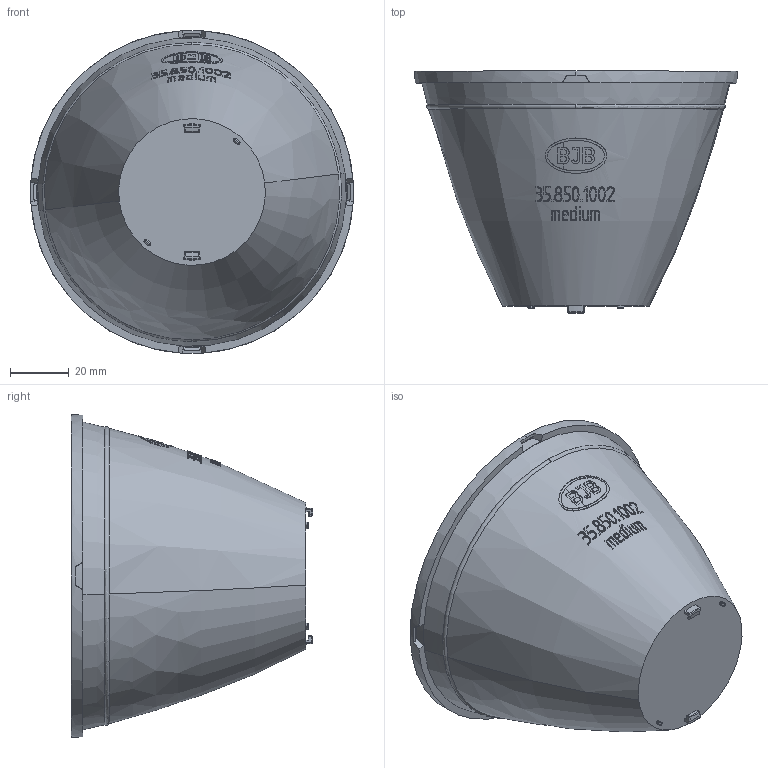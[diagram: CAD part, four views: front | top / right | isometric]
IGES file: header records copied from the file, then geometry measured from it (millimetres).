
Global section: file name: C:\CoreTechnologie\3D-In/022-J01-05.igs; native system: CT CoreTechnologie 3D Evolution; preprocessor: 2006; date: 1191118.145518; units: millimetre
Bounding box: 110 x 82.35 x 110 mm (x, y, z)
Volume: 446922.7 mm3; surface area: 34581.3 mm2
Topology: 1 solids, 1 shells, 289 faces, 727 edges, 466 vertices
Faces by surface type: plane 130, revolution 106, bspline 53
